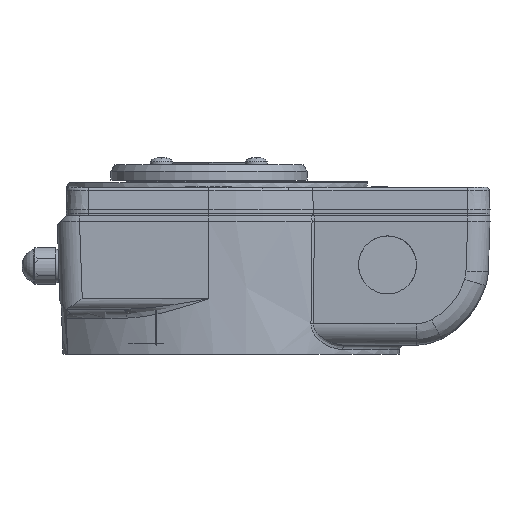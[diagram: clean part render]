
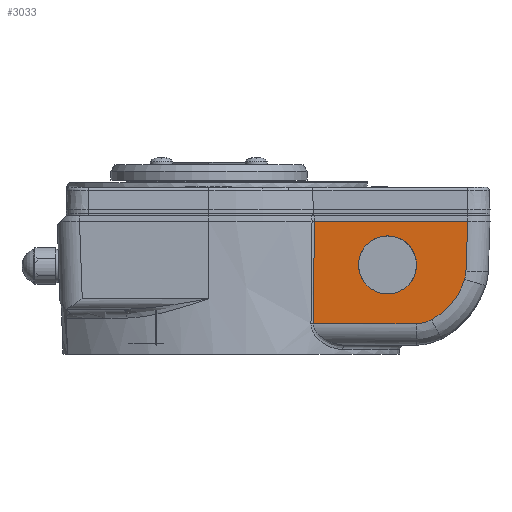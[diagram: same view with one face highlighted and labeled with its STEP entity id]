
A CAD part, left-side view. The second image highlights one B-rep face of the part: STEP entity #3033.
In plain terms, the highlighted planar face has unit normal (-0.999, 0, -0.035).
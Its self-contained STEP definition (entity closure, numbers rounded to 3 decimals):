
#3033 = ADVANCED_FACE( '', ( #7898, #7899 ), #7900, .T. );
#7898 = FACE_OUTER_BOUND( '', #17817, .T. );
#7899 = FACE_BOUND( '', #17818, .T. );
#7900 = PLANE( '', #17819 );
#17817 = EDGE_LOOP( '', ( #47502, #47503, #47504, #47505, #47506, #47507, #47508 ) );
#17818 = EDGE_LOOP( '', ( #47509, #47510 ) );
#17819 = AXIS2_PLACEMENT_3D( '', #47511, #47512, #47513 );
#47502 = ORIENTED_EDGE( '', *, *, #65151, .F. );
#47503 = ORIENTED_EDGE( '', *, *, #65152, .T. );
#47504 = ORIENTED_EDGE( '', *, *, #65153, .T. );
#47505 = ORIENTED_EDGE( '', *, *, #64179, .T. );
#47506 = ORIENTED_EDGE( '', *, *, #63719, .T. );
#47507 = ORIENTED_EDGE( '', *, *, #64048, .T. );
#47508 = ORIENTED_EDGE( '', *, *, #63147, .T. );
#47509 = ORIENTED_EDGE( '', *, *, #65154, .T. );
#47510 = ORIENTED_EDGE( '', *, *, #65155, .T. );
#47511 = CARTESIAN_POINT( '', ( -74., -29., -2.5 ) );
#47512 = DIRECTION( '', ( -0.999, 0., -0.035 ) );
#47513 = DIRECTION( '', ( -0.035, 0., 0.999 ) );
#63147 = EDGE_CURVE( '', #70864, #70862, #70865, .F. );
#63719 = EDGE_CURVE( '', #71877, #71875, #71878, .T. );
#64048 = EDGE_CURVE( '', #71875, #70864, #72443, .T. );
#64179 = EDGE_CURVE( '', #72662, #71877, #72663, .T. );
#65151 = EDGE_CURVE( '', #74304, #70862, #74305, .T. );
#65152 = EDGE_CURVE( '', #74304, #74306, #74307, .T. );
#65153 = EDGE_CURVE( '', #74306, #72662, #74308, .F. );
#65154 = EDGE_CURVE( '', #74309, #74310, #74311, .F. );
#65155 = EDGE_CURVE( '', #74310, #74309, #74312, .F. );
#70862 = VERTEX_POINT( '', #82187 );
#70864 = VERTEX_POINT( '', #82189 );
#70865 = LINE( '', #82190, #82191 );
#71875 = VERTEX_POINT( '', #84519 );
#71877 = VERTEX_POINT( '', #84521 );
#71878 = ELLIPSE( '', #84522, 31.019, 31. );
#72443 = ELLIPSE( '', #85873, 13.736, 13.728 );
#72662 = VERTEX_POINT( '', #86448 );
#72663 = ELLIPSE( '', #86449, 14.408, 14.399 );
#74304 = VERTEX_POINT( '', #92109 );
#74305 = LINE( '', #92110, #92111 );
#74306 = VERTEX_POINT( '', #92112 );
#74307 = B_SPLINE_CURVE_WITH_KNOTS( '', 3, ( #92113, #92114, #92115, #92116 ), .UNSPECIFIED., .F., .F., ( 4, 4 ), ( 0., 0.046 ), .UNSPECIFIED. );
#74308 = LINE( '', #92117, #92118 );
#74309 = VERTEX_POINT( '', #92119 );
#74310 = VERTEX_POINT( '', #92120 );
#74311 = ELLIPSE( '', #92121, 13.008, 13. );
#74312 = ELLIPSE( '', #92122, 13.008, 13. );
#82187 = CARTESIAN_POINT( '', ( -74., -116.006, -2.5 ) );
#82189 = CARTESIAN_POINT( '', ( -73.217, -115.223, -24.923 ) );
#82190 = CARTESIAN_POINT( '', ( -73.894, -115.9, -5.531 ) );
#82191 = VECTOR( '', #111556, 1000. );
#84519 = CARTESIAN_POINT( '', ( -73.092, -114.621, -28.494 ) );
#84521 = CARTESIAN_POINT( '', ( -72.459, -99.751, -46.614 ) );
#84522 = AXIS2_PLACEMENT_3D( '', #112244, #112245, #112246 );
#85873 = AXIS2_PLACEMENT_3D( '', #112653, #112654, #112655 );
#86448 = CARTESIAN_POINT( '', ( -72.399, -92.9, -48.349 ) );
#86449 = AXIS2_PLACEMENT_3D( '', #112818, #112819, #112820 );
#92109 = CARTESIAN_POINT( '', ( -74., -47.268, -2.5 ) );
#92110 = CARTESIAN_POINT( '', ( -74., -29., -2.5 ) );
#92111 = VECTOR( '', #114057, 1000. );
#92112 = CARTESIAN_POINT( '', ( -72.399, -46.808, -48.349 ) );
#92113 = CARTESIAN_POINT( '', ( -74., -47.268, -2.5 ) );
#92114 = CARTESIAN_POINT( '', ( -73.466, -47.115, -17.783 ) );
#92115 = CARTESIAN_POINT( '', ( -72.933, -46.962, -33.066 ) );
#92116 = CARTESIAN_POINT( '', ( -72.399, -46.808, -48.349 ) );
#92117 = CARTESIAN_POINT( '', ( -72.399, -29., -48.349 ) );
#92118 = VECTOR( '', #114058, 1000. );
#92119 = CARTESIAN_POINT( '', ( -73., -70.802, -31.136 ) );
#92120 = CARTESIAN_POINT( '', ( -73., -89.298, -31.136 ) );
#92121 = AXIS2_PLACEMENT_3D( '', #114059, #114060, #114061 );
#92122 = AXIS2_PLACEMENT_3D( '', #114062, #114063, #114064 );
#111556 = DIRECTION( '', ( 0.035, 0.035, -0.999 ) );
#112244 = CARTESIAN_POINT( '', ( -73.412, -85., -19.349 ) );
#112245 = DIRECTION( '', ( -0.999, 0., -0.035 ) );
#112246 = DIRECTION( '', ( -0.035, 0., 0.999 ) );
#112653 = CARTESIAN_POINT( '', ( -73.234, -101.503, -24.444 ) );
#112654 = DIRECTION( '', ( -0.999, 0., -0.035 ) );
#112655 = DIRECTION( '', ( -0.035, 0., 0.999 ) );
#112818 = CARTESIAN_POINT( '', ( -72.902, -92.9, -33.95 ) );
#112819 = DIRECTION( '', ( -0.999, 0., -0.035 ) );
#112820 = DIRECTION( '', ( -0.035, 0., 0.999 ) );
#114057 = DIRECTION( '', ( 0., -1., 0. ) );
#114058 = DIRECTION( '', ( 0., 1., 0. ) );
#114059 = CARTESIAN_POINT( '', ( -73.319, -80.05, -22. ) );
#114060 = DIRECTION( '', ( -0.999, 0., -0.035 ) );
#114061 = DIRECTION( '', ( 0.035, 0., -0.999 ) );
#114062 = CARTESIAN_POINT( '', ( -73.319, -80.05, -22. ) );
#114063 = DIRECTION( '', ( -0.999, 0., -0.035 ) );
#114064 = DIRECTION( '', ( 0.035, 0., -0.999 ) );
